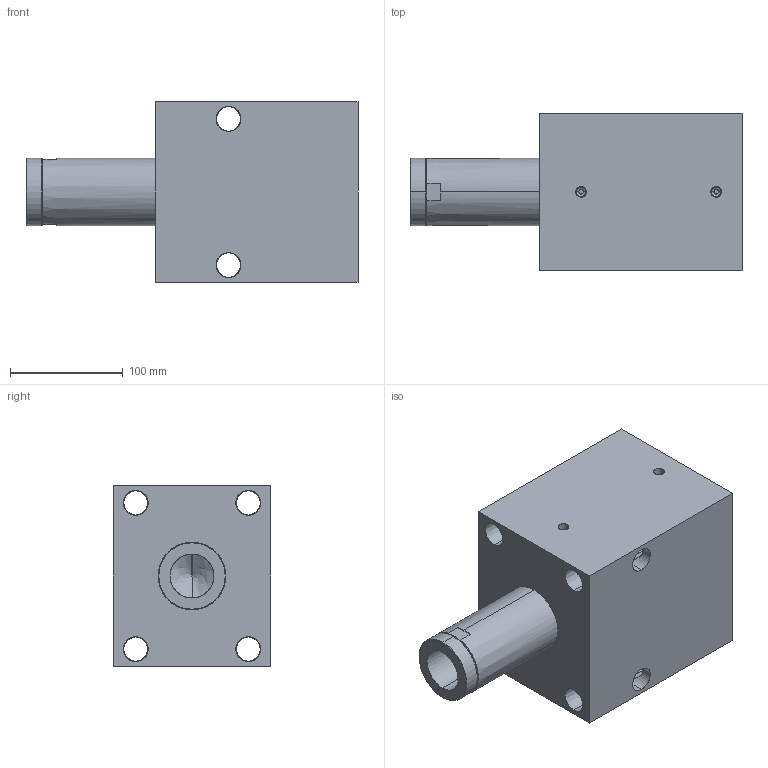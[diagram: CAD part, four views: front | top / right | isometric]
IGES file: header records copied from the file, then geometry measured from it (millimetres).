
Start section: SolidWorks IGES file using analytic representation for surfaces
Global section: file name: C:\Documents and Settings\rajib\Desktop\Rajib\BLOCK CYLINDER HYDRAULIC\0901-0906\IGES 0901-0908\0908.IGS; native system: SolidWorks 2007; preprocessor: SolidWorks 2007; author: rajib; date: 110121.165705; units: millimetre
Bounding box: 295 x 140 x 160 mm (x, y, z)
Surface area: 244925.3 mm2 (no closed solid volume)
Topology: 0 solids, 0 shells, 80 faces, 2048 edges, 2046 vertices
Faces by surface type: revolution 58, bspline 22
